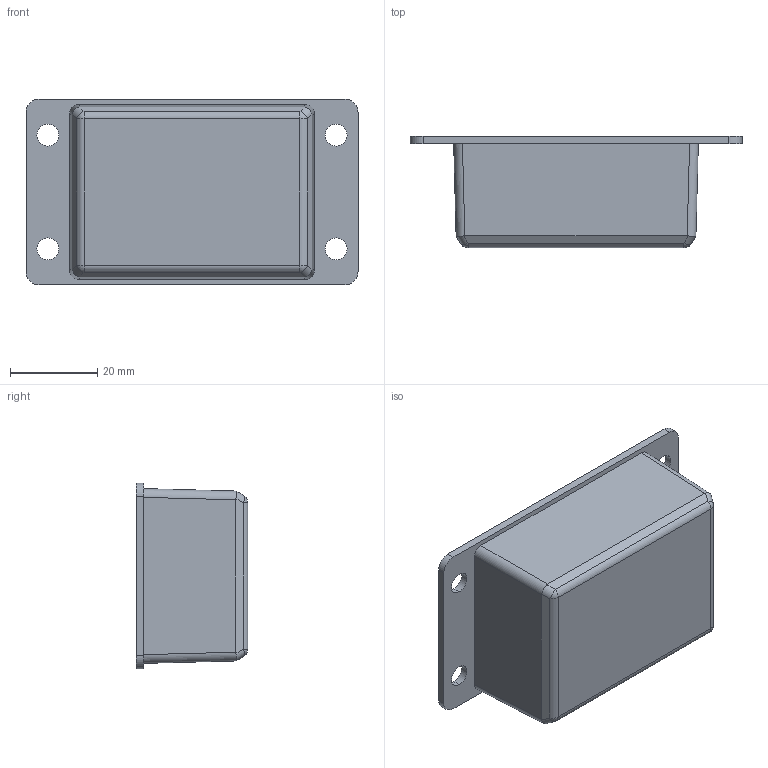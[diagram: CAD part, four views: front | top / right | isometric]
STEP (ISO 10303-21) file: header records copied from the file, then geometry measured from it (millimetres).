
FILE_DESCRIPTION (( 'STEP AP214' ), '1' );
FILE_NAME ('Tapa PP94 D.STEP', '2017-07-31T08:09:58', ( 'aaa' ), ( '' ), 'SwSTEP 2.0', 'SolidWorks 2013', '' );
FILE_SCHEMA (( 'AUTOMOTIVE_DESIGN' ));
Length unit declared in the file: millimetre
Products named in the file (1): Tapa PP94 D
Bounding box: 76 x 25.5 x 42.5 mm (x, y, z)
Volume: 13914.5 mm3; surface area: 16128.7 mm2
Topology: 1 solids, 1 shells, 85 faces, 220 edges, 140 vertices
Faces by surface type: cylinder 44, plane 37, sphere 4
Entity records: 2624 total; most frequent: CARTESIAN_POINT 526, DIRECTION 440, ORIENTED_EDGE 432, EDGE_CURVE 216, AXIS2_PLACEMENT_3D 166, VERTEX_POINT 140, LINE 108, VECTOR 108
